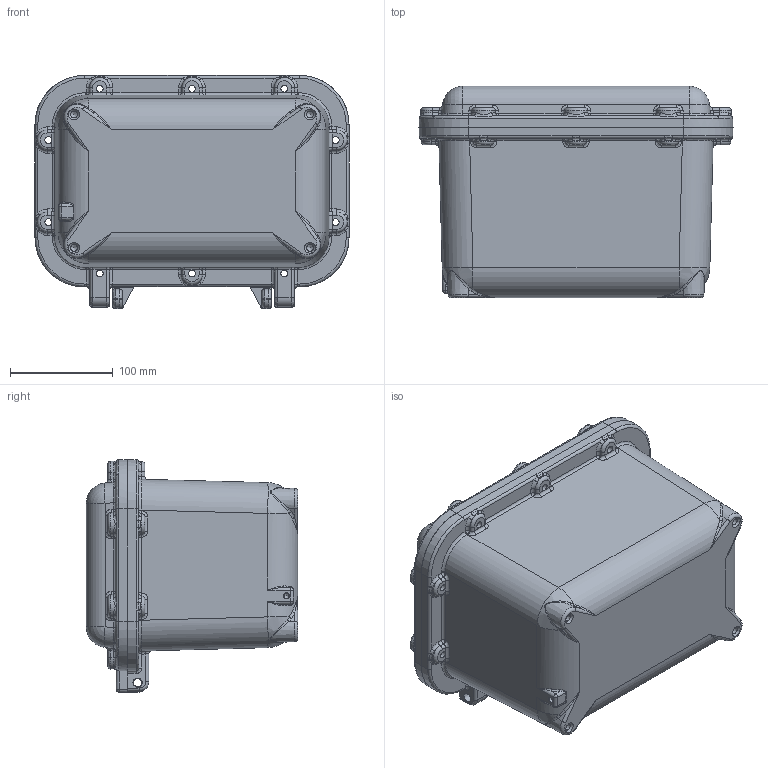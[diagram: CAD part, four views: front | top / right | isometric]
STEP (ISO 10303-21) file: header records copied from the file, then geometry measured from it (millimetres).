
FILE_DESCRIPTION(('STEP AP203'), '1');
FILE_NAME('Ñáîðêà_Êîðïóñ Â03-1', '', ('UNSPECIFIED'), ('UNSPECIFIED'), 'C3D Converter', 'C3D Toolkit', '');
FILE_SCHEMA(('CONFIG_CONTROL_DESIGN'));
Length unit declared in the file: millimetre
Products named in the file (3): В03-01; В03-02
Assembly tree (2 placements, depth 2):
  (unnamed)
    В03-01
    В03-02
Bounding box: 306 x 206 x 227.15 mm (x, y, z)
Volume: 3419191.4 mm3; surface area: 531470.6 mm2
Topology: 2 solids, 2 shells, 1420 faces, 3571 edges, 2147 vertices
Faces by surface type: cylinder 671, plane 257, bspline 245, torus 88, cone 77, extrusion 54, sphere 28
Full cylindrical faces by diameter (mm): 4.134 x6, 4.917 x1, 6.647 x14, 8 x2, 9 x22
Entity records: 111606 total; most frequent: CARTESIAN_POINT 68061, ORIENTED_EDGE 6878, DIRECTION 6343, EDGE_CURVE 3439, AXIS2_PLACEMENT_3D 2491, VERTEX_POINT 2136, EDGE_LOOP 1581, FACE_BOUND 1450
